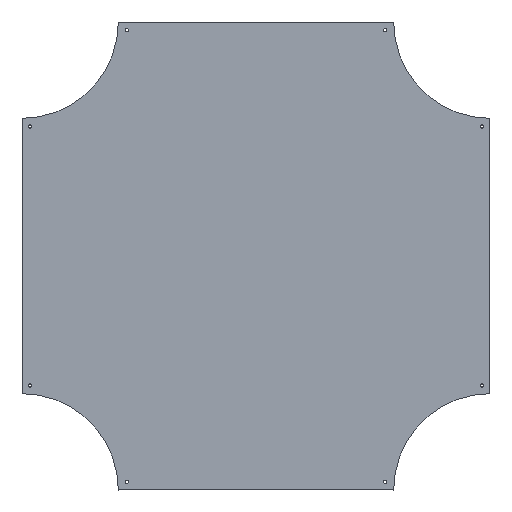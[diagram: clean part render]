
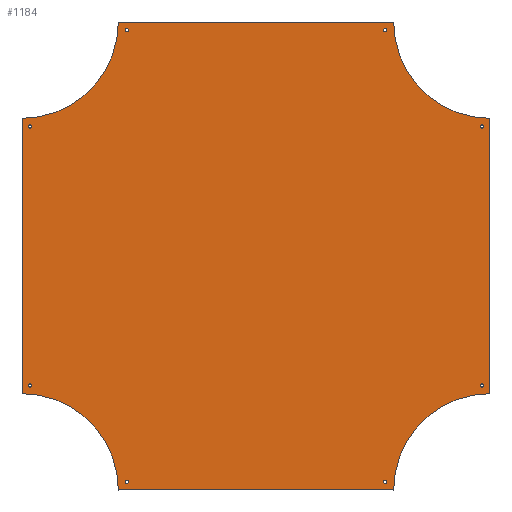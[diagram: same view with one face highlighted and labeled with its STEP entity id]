
A CAD part, top view. The second image highlights one B-rep face of the part: STEP entity #1184.
In plain terms, the highlighted planar face has unit normal (0, 0, 1).
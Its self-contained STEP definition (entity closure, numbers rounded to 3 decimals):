
#86=FACE_BOUND('',#177,.T.);
#87=FACE_BOUND('',#178,.T.);
#88=FACE_BOUND('',#179,.T.);
#89=FACE_BOUND('',#180,.T.);
#90=FACE_BOUND('',#181,.T.);
#91=FACE_BOUND('',#182,.T.);
#92=FACE_BOUND('',#183,.T.);
#93=FACE_BOUND('',#184,.T.);
#102=FACE_OUTER_BOUND('',#176,.T.);
#176=EDGE_LOOP('',(#810,#811,#812,#813,#814,#815,#816,#817));
#177=EDGE_LOOP('',(#818,#819));
#178=EDGE_LOOP('',(#820,#821));
#179=EDGE_LOOP('',(#822,#823));
#180=EDGE_LOOP('',(#824,#825));
#181=EDGE_LOOP('',(#826,#827));
#182=EDGE_LOOP('',(#828,#829));
#183=EDGE_LOOP('',(#830,#831));
#184=EDGE_LOOP('',(#832,#833));
#266=CIRCLE('',#1270,298.5);
#267=CIRCLE('',#1271,298.5);
#268=CIRCLE('',#1272,298.5);
#269=CIRCLE('',#1273,298.5);
#270=CIRCLE('',#1274,5.);
#271=CIRCLE('',#1275,5.);
#272=CIRCLE('',#1276,5.);
#273=CIRCLE('',#1277,5.);
#274=CIRCLE('',#1278,5.);
#275=CIRCLE('',#1279,5.);
#276=CIRCLE('',#1280,5.);
#277=CIRCLE('',#1281,5.);
#278=CIRCLE('',#1282,5.);
#279=CIRCLE('',#1283,5.);
#280=CIRCLE('',#1284,5.);
#281=CIRCLE('',#1285,5.);
#282=CIRCLE('',#1286,5.);
#283=CIRCLE('',#1287,5.);
#284=CIRCLE('',#1288,5.);
#285=CIRCLE('',#1289,5.);
#338=LINE('',#1839,#434);
#339=LINE('',#1843,#435);
#340=LINE('',#1847,#436);
#341=LINE('',#1851,#437);
#434=VECTOR('',#1430,304.8);
#435=VECTOR('',#1433,304.8);
#436=VECTOR('',#1436,304.8);
#437=VECTOR('',#1439,304.8);
#530=VERTEX_POINT('',#1837);
#531=VERTEX_POINT('',#1838);
#532=VERTEX_POINT('',#1840);
#533=VERTEX_POINT('',#1842);
#534=VERTEX_POINT('',#1844);
#535=VERTEX_POINT('',#1846);
#536=VERTEX_POINT('',#1848);
#537=VERTEX_POINT('',#1850);
#538=VERTEX_POINT('',#1853);
#539=VERTEX_POINT('',#1854);
#540=VERTEX_POINT('',#1857);
#541=VERTEX_POINT('',#1858);
#542=VERTEX_POINT('',#1861);
#543=VERTEX_POINT('',#1862);
#544=VERTEX_POINT('',#1865);
#545=VERTEX_POINT('',#1866);
#546=VERTEX_POINT('',#1869);
#547=VERTEX_POINT('',#1870);
#548=VERTEX_POINT('',#1873);
#549=VERTEX_POINT('',#1874);
#550=VERTEX_POINT('',#1877);
#551=VERTEX_POINT('',#1878);
#552=VERTEX_POINT('',#1881);
#553=VERTEX_POINT('',#1882);
#642=EDGE_CURVE('',#530,#531,#338,.T.);
#643=EDGE_CURVE('',#531,#532,#266,.T.);
#644=EDGE_CURVE('',#532,#533,#339,.T.);
#645=EDGE_CURVE('',#533,#534,#267,.T.);
#646=EDGE_CURVE('',#534,#535,#340,.T.);
#647=EDGE_CURVE('',#535,#536,#268,.T.);
#648=EDGE_CURVE('',#536,#537,#341,.T.);
#649=EDGE_CURVE('',#537,#530,#269,.T.);
#650=EDGE_CURVE('',#538,#539,#270,.T.);
#651=EDGE_CURVE('',#539,#538,#271,.T.);
#652=EDGE_CURVE('',#540,#541,#272,.T.);
#653=EDGE_CURVE('',#541,#540,#273,.T.);
#654=EDGE_CURVE('',#542,#543,#274,.T.);
#655=EDGE_CURVE('',#543,#542,#275,.T.);
#656=EDGE_CURVE('',#544,#545,#276,.T.);
#657=EDGE_CURVE('',#545,#544,#277,.T.);
#658=EDGE_CURVE('',#546,#547,#278,.T.);
#659=EDGE_CURVE('',#547,#546,#279,.T.);
#660=EDGE_CURVE('',#548,#549,#280,.T.);
#661=EDGE_CURVE('',#549,#548,#281,.T.);
#662=EDGE_CURVE('',#550,#551,#282,.T.);
#663=EDGE_CURVE('',#551,#550,#283,.T.);
#664=EDGE_CURVE('',#552,#553,#284,.T.);
#665=EDGE_CURVE('',#553,#552,#285,.T.);
#810=ORIENTED_EDGE('',*,*,#642,.T.);
#811=ORIENTED_EDGE('',*,*,#643,.T.);
#812=ORIENTED_EDGE('',*,*,#644,.T.);
#813=ORIENTED_EDGE('',*,*,#645,.T.);
#814=ORIENTED_EDGE('',*,*,#646,.T.);
#815=ORIENTED_EDGE('',*,*,#647,.T.);
#816=ORIENTED_EDGE('',*,*,#648,.T.);
#817=ORIENTED_EDGE('',*,*,#649,.T.);
#818=ORIENTED_EDGE('',*,*,#650,.T.);
#819=ORIENTED_EDGE('',*,*,#651,.T.);
#820=ORIENTED_EDGE('',*,*,#652,.T.);
#821=ORIENTED_EDGE('',*,*,#653,.T.);
#822=ORIENTED_EDGE('',*,*,#654,.T.);
#823=ORIENTED_EDGE('',*,*,#655,.T.);
#824=ORIENTED_EDGE('',*,*,#656,.T.);
#825=ORIENTED_EDGE('',*,*,#657,.T.);
#826=ORIENTED_EDGE('',*,*,#658,.T.);
#827=ORIENTED_EDGE('',*,*,#659,.T.);
#828=ORIENTED_EDGE('',*,*,#660,.T.);
#829=ORIENTED_EDGE('',*,*,#661,.T.);
#830=ORIENTED_EDGE('',*,*,#662,.T.);
#831=ORIENTED_EDGE('',*,*,#663,.T.);
#832=ORIENTED_EDGE('',*,*,#664,.T.);
#833=ORIENTED_EDGE('',*,*,#665,.T.);
#1146=PLANE('',#1269);
#1184=ADVANCED_FACE('',(#102,#86,#87,#88,#89,#90,#91,#92,#93),#1146,.T.);
#1269=AXIS2_PLACEMENT_3D('',#1836,#1428,#1429);
#1270=AXIS2_PLACEMENT_3D('',#1841,#1431,#1432);
#1271=AXIS2_PLACEMENT_3D('',#1845,#1434,#1435);
#1272=AXIS2_PLACEMENT_3D('',#1849,#1437,#1438);
#1273=AXIS2_PLACEMENT_3D('',#1852,#1440,#1441);
#1274=AXIS2_PLACEMENT_3D('',#1855,#1442,#1443);
#1275=AXIS2_PLACEMENT_3D('',#1856,#1444,#1445);
#1276=AXIS2_PLACEMENT_3D('',#1859,#1446,#1447);
#1277=AXIS2_PLACEMENT_3D('',#1860,#1448,#1449);
#1278=AXIS2_PLACEMENT_3D('',#1863,#1450,#1451);
#1279=AXIS2_PLACEMENT_3D('',#1864,#1452,#1453);
#1280=AXIS2_PLACEMENT_3D('',#1867,#1454,#1455);
#1281=AXIS2_PLACEMENT_3D('',#1868,#1456,#1457);
#1282=AXIS2_PLACEMENT_3D('',#1871,#1458,#1459);
#1283=AXIS2_PLACEMENT_3D('',#1872,#1460,#1461);
#1284=AXIS2_PLACEMENT_3D('',#1875,#1462,#1463);
#1285=AXIS2_PLACEMENT_3D('',#1876,#1464,#1465);
#1286=AXIS2_PLACEMENT_3D('',#1879,#1466,#1467);
#1287=AXIS2_PLACEMENT_3D('',#1880,#1468,#1469);
#1288=AXIS2_PLACEMENT_3D('',#1883,#1470,#1471);
#1289=AXIS2_PLACEMENT_3D('',#1884,#1472,#1473);
#1428=DIRECTION('center_axis',(0.,0.,1.));
#1429=DIRECTION('ref_axis',(0.,-1.,0.));
#1430=DIRECTION('',(0.,1.,0.));
#1431=DIRECTION('center_axis',(0.,0.,-1.));
#1432=DIRECTION('ref_axis',(1.,0.,0.));
#1433=DIRECTION('',(-1.,0.,0.));
#1434=DIRECTION('center_axis',(0.,0.,-1.));
#1435=DIRECTION('ref_axis',(1.,0.,0.));
#1436=DIRECTION('',(0.,-1.,0.));
#1437=DIRECTION('center_axis',(0.,0.,-1.));
#1438=DIRECTION('ref_axis',(1.,0.,0.));
#1439=DIRECTION('',(1.,0.,0.));
#1440=DIRECTION('center_axis',(0.,0.,-1.));
#1441=DIRECTION('ref_axis',(1.,0.,0.));
#1442=DIRECTION('center_axis',(0.,0.,-1.));
#1443=DIRECTION('ref_axis',(1.,0.,0.));
#1444=DIRECTION('center_axis',(0.,0.,-1.));
#1445=DIRECTION('ref_axis',(1.,0.,0.));
#1446=DIRECTION('center_axis',(0.,0.,-1.));
#1447=DIRECTION('ref_axis',(1.,0.,0.));
#1448=DIRECTION('center_axis',(0.,0.,-1.));
#1449=DIRECTION('ref_axis',(1.,0.,0.));
#1450=DIRECTION('center_axis',(0.,0.,-1.));
#1451=DIRECTION('ref_axis',(1.,0.,0.));
#1452=DIRECTION('center_axis',(0.,0.,-1.));
#1453=DIRECTION('ref_axis',(1.,0.,0.));
#1454=DIRECTION('center_axis',(0.,0.,-1.));
#1455=DIRECTION('ref_axis',(1.,0.,0.));
#1456=DIRECTION('center_axis',(0.,0.,-1.));
#1457=DIRECTION('ref_axis',(1.,0.,0.));
#1458=DIRECTION('center_axis',(0.,0.,-1.));
#1459=DIRECTION('ref_axis',(1.,0.,0.));
#1460=DIRECTION('center_axis',(0.,0.,-1.));
#1461=DIRECTION('ref_axis',(1.,0.,0.));
#1462=DIRECTION('center_axis',(0.,0.,-1.));
#1463=DIRECTION('ref_axis',(1.,0.,0.));
#1464=DIRECTION('center_axis',(0.,0.,-1.));
#1465=DIRECTION('ref_axis',(1.,0.,0.));
#1466=DIRECTION('center_axis',(0.,0.,-1.));
#1467=DIRECTION('ref_axis',(1.,0.,0.));
#1468=DIRECTION('center_axis',(0.,0.,-1.));
#1469=DIRECTION('ref_axis',(1.,0.,0.));
#1470=DIRECTION('center_axis',(0.,0.,-1.));
#1471=DIRECTION('ref_axis',(1.,0.,0.));
#1472=DIRECTION('center_axis',(0.,0.,-1.));
#1473=DIRECTION('ref_axis',(1.,0.,0.));
#1836=CARTESIAN_POINT('Origin',(-426.5,-725.,1.5));
#1837=CARTESIAN_POINT('',(725.,-426.5,1.5));
#1838=CARTESIAN_POINT('',(725.,426.5,1.5));
#1839=CARTESIAN_POINT('',(725.,-426.5,1.5));
#1840=CARTESIAN_POINT('',(426.5,725.,1.5));
#1841=CARTESIAN_POINT('Origin',(725.,725.,1.5));
#1842=CARTESIAN_POINT('',(-426.5,725.,1.5));
#1843=CARTESIAN_POINT('',(426.5,725.,1.5));
#1844=CARTESIAN_POINT('',(-725.,426.5,1.5));
#1845=CARTESIAN_POINT('Origin',(-725.,725.,1.5));
#1846=CARTESIAN_POINT('',(-725.,-426.5,1.5));
#1847=CARTESIAN_POINT('',(-725.,426.5,1.5));
#1848=CARTESIAN_POINT('',(-426.5,-725.,1.5));
#1849=CARTESIAN_POINT('Origin',(-725.,-725.,1.5));
#1850=CARTESIAN_POINT('',(426.5,-725.,1.5));
#1851=CARTESIAN_POINT('',(-426.5,-725.,1.5));
#1852=CARTESIAN_POINT('Origin',(725.,-725.,1.5));
#1853=CARTESIAN_POINT('',(-695.,401.5,1.5));
#1854=CARTESIAN_POINT('',(-705.,401.5,1.5));
#1855=CARTESIAN_POINT('Origin',(-700.,401.5,1.5));
#1856=CARTESIAN_POINT('Origin',(-700.,401.5,1.5));
#1857=CARTESIAN_POINT('',(-695.,-401.5,1.5));
#1858=CARTESIAN_POINT('',(-705.,-401.5,1.5));
#1859=CARTESIAN_POINT('Origin',(-700.,-401.5,1.5));
#1860=CARTESIAN_POINT('Origin',(-700.,-401.5,1.5));
#1861=CARTESIAN_POINT('',(405.,700.,1.5));
#1862=CARTESIAN_POINT('',(395.,700.,1.5));
#1863=CARTESIAN_POINT('Origin',(400.,700.,1.5));
#1864=CARTESIAN_POINT('Origin',(400.,700.,1.5));
#1865=CARTESIAN_POINT('',(-395.,700.,1.5));
#1866=CARTESIAN_POINT('',(-405.,700.,1.5));
#1867=CARTESIAN_POINT('Origin',(-400.,700.,1.5));
#1868=CARTESIAN_POINT('Origin',(-400.,700.,1.5));
#1869=CARTESIAN_POINT('',(705.,401.5,1.5));
#1870=CARTESIAN_POINT('',(695.,401.5,1.5));
#1871=CARTESIAN_POINT('Origin',(700.,401.5,1.5));
#1872=CARTESIAN_POINT('Origin',(700.,401.5,1.5));
#1873=CARTESIAN_POINT('',(705.,-401.5,1.5));
#1874=CARTESIAN_POINT('',(695.,-401.5,1.5));
#1875=CARTESIAN_POINT('Origin',(700.,-401.5,1.5));
#1876=CARTESIAN_POINT('Origin',(700.,-401.5,1.5));
#1877=CARTESIAN_POINT('',(-395.,-700.,1.5));
#1878=CARTESIAN_POINT('',(-405.,-700.,1.5));
#1879=CARTESIAN_POINT('Origin',(-400.,-700.,1.5));
#1880=CARTESIAN_POINT('Origin',(-400.,-700.,1.5));
#1881=CARTESIAN_POINT('',(405.,-700.,1.5));
#1882=CARTESIAN_POINT('',(395.,-700.,1.5));
#1883=CARTESIAN_POINT('Origin',(400.,-700.,1.5));
#1884=CARTESIAN_POINT('Origin',(400.,-700.,1.5));
